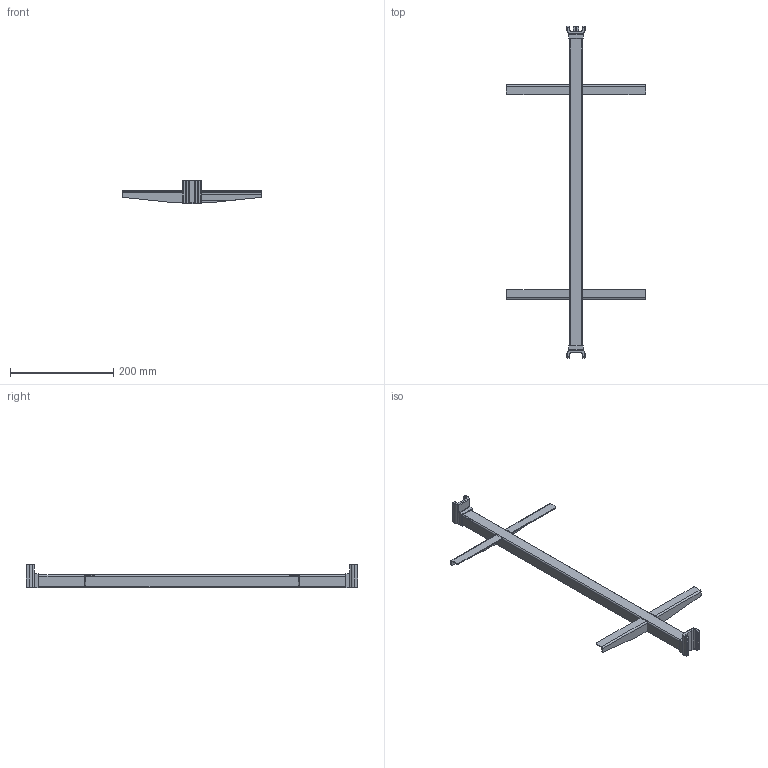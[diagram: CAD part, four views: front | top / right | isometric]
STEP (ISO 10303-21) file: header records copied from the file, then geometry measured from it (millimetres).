
FILE_DESCRIPTION (( 'STEP AP214' ), '1' );
FILE_NAME ('1000263.STEP', '2025-10-01T14:54:24', ( '' ), ( '' ), 'SwSTEP 2.0', 'SolidWorks 2025', '' );
FILE_SCHEMA (( 'AUTOMOTIVE_DESIGN' ));
Length unit declared in the file: millimetre
Products named in the file (1): 1000263
Bounding box: 270 x 643 x 46.3 mm (x, y, z)
Volume: 485961.5 mm3; surface area: 120290.7 mm2
Topology: 12 solids, 12 shells, 586 faces, 1558 edges, 999 vertices
Faces by surface type: plane 394, cylinder 172, bspline 20
Entity records: 18487 total; most frequent: CARTESIAN_POINT 4035, ORIENTED_EDGE 3116, DIRECTION 2776, EDGE_CURVE 1558, VECTOR 1128, LINE 1128, VERTEX_POINT 999, AXIS2_PLACEMENT_3D 824
